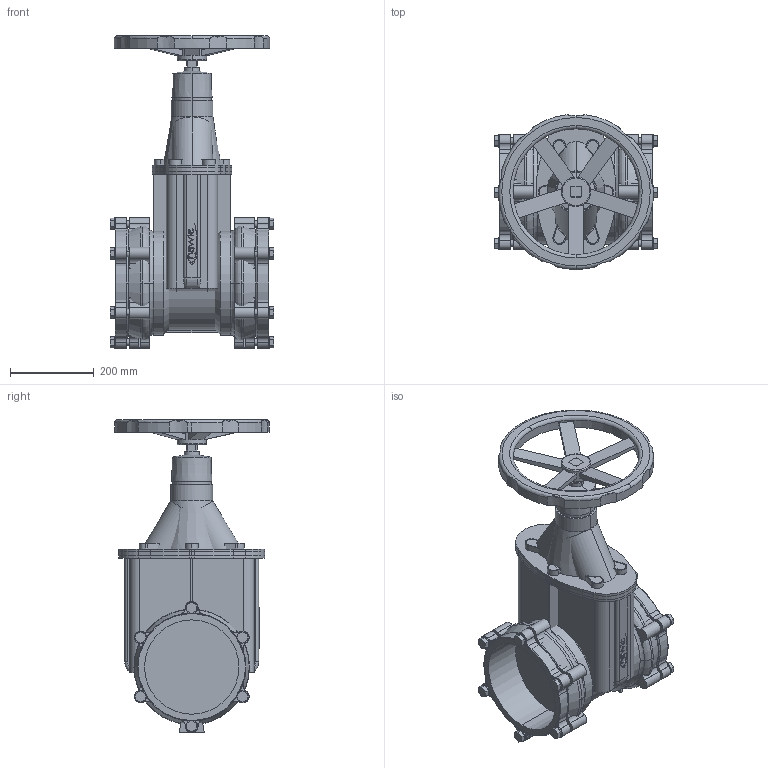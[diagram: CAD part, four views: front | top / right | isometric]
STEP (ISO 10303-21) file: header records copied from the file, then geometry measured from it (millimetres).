
FILE_DESCRIPTION(('STEP AP214'),'1');
FILE_NAME('S:/EK/USER/CAT6/3DHomepage/4040E2/4040E2-PN16-DN200-225-HANDRAD.STP','2012-04-24T11:26:23',(' '),(' '),'Spatial InterOp 3D',' ',' ');
FILE_SCHEMA(('automotive_design'));
Length unit declared in the file: millimetre
Products named in the file (115): 3D-Objekt
Bounding box: 391 x 368.75 x 746 mm (x, y, z)
Volume: 27237247.3 mm3; surface area: 2256753.4 mm2
Topology: 115 solids, 115 shells, 1009 faces, 2303 edges, 1534 vertices
Faces by surface type: plane 585, cylinder 370, torus 36, cone 14, bspline 4
Entity records: 39712 total; most frequent: DIRECTION 5415, CARTESIAN_POINT 5339, ORIENTED_EDGE 4606, EDGE_CURVE 2303, AXIS2_PLACEMENT_3D 2002, VERTEX_POINT 1534, LINE 1411, VECTOR 1411
